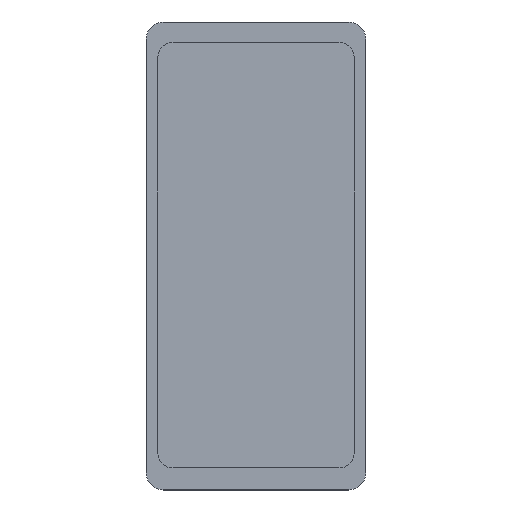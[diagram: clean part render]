
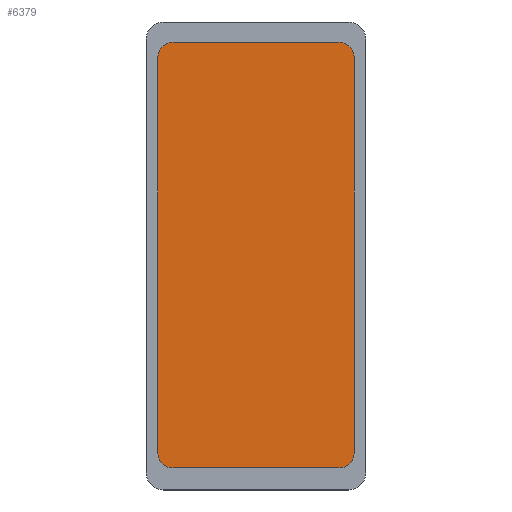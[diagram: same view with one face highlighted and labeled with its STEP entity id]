
A CAD part, top view. The second image highlights one B-rep face of the part: STEP entity #6379.
In plain terms, the highlighted planar face has unit normal (0, 0, 1).
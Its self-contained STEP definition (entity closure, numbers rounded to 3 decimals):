
#4991=CARTESIAN_POINT('',(-28.205,67.46,3.84));
#4992=DIRECTION('',(0.,0.,1.));
#4993=DIRECTION('',(0.,1.,0.));
#4994=AXIS2_PLACEMENT_3D('',#4991,#4992,#4993);
#4999=DIRECTION('',(-1.,0.,0.));
#5000=VECTOR('',#4999,56.41);
#5001=CARTESIAN_POINT('',(28.205,72.66,3.84));
#5002=LINE('',#5001,#5000);
#5006=CARTESIAN_POINT('',(28.205,67.46,3.84));
#5007=DIRECTION('',(0.,0.,1.));
#5008=DIRECTION('',(1.,0.,0.));
#5009=AXIS2_PLACEMENT_3D('',#5006,#5007,#5008);
#5014=DIRECTION('',(0.,1.,0.));
#5015=VECTOR('',#5014,134.35);
#5016=CARTESIAN_POINT('',(33.405,-66.89,3.84));
#5017=LINE('',#5016,#5015);
#5021=CARTESIAN_POINT('',(28.205,-66.89,3.84));
#5022=DIRECTION('',(0.,0.,1.));
#5023=DIRECTION('',(0.,-1.,0.));
#5024=AXIS2_PLACEMENT_3D('',#5021,#5022,#5023);
#5029=DIRECTION('',(1.,0.,0.));
#5030=VECTOR('',#5029,56.41);
#5031=CARTESIAN_POINT('',(-28.205,-72.09,3.84));
#5032=LINE('',#5031,#5030);
#5036=CARTESIAN_POINT('',(-28.205,-66.89,3.84));
#5037=DIRECTION('',(0.,0.,1.));
#5038=DIRECTION('',(-1.,0.,0.));
#5039=AXIS2_PLACEMENT_3D('',#5036,#5037,#5038);
#5044=DIRECTION('',(0.,-1.,0.));
#5045=VECTOR('',#5044,134.35);
#5046=CARTESIAN_POINT('',(-33.405,67.46,3.84));
#5047=LINE('',#5046,#5045);
#6028=CARTESIAN_POINT('',(-28.205,72.66,3.84));
#6029=CARTESIAN_POINT('',(-33.405,67.46,3.84));
#6030=VERTEX_POINT('',#6028);
#6031=VERTEX_POINT('',#6029);
#6032=CARTESIAN_POINT('',(-33.405,-66.89,3.84));
#6033=VERTEX_POINT('',#6032);
#6034=CARTESIAN_POINT('',(-28.205,-72.09,3.84));
#6035=VERTEX_POINT('',#6034);
#6036=CARTESIAN_POINT('',(28.205,-72.09,3.84));
#6037=VERTEX_POINT('',#6036);
#6038=CARTESIAN_POINT('',(33.405,-66.89,3.84));
#6039=VERTEX_POINT('',#6038);
#6040=CARTESIAN_POINT('',(33.405,67.46,3.84));
#6041=VERTEX_POINT('',#6040);
#6042=CARTESIAN_POINT('',(28.205,72.66,3.84));
#6043=VERTEX_POINT('',#6042);
#6364=CARTESIAN_POINT('',(0.,0.,3.84));
#6365=DIRECTION('',(0.,0.,1.));
#6366=DIRECTION('',(1.,0.,0.));
#6367=AXIS2_PLACEMENT_3D('',#6364,#6365,#6366);
#6368=PLANE('',#6367);
#6369=ORIENTED_EDGE('',*,*,#6260,.F.);
#6370=ORIENTED_EDGE('',*,*,#6275,.F.);
#6371=ORIENTED_EDGE('',*,*,#6289,.F.);
#6372=ORIENTED_EDGE('',*,*,#6303,.F.);
#6373=ORIENTED_EDGE('',*,*,#6317,.F.);
#6374=ORIENTED_EDGE('',*,*,#6331,.F.);
#6375=ORIENTED_EDGE('',*,*,#6345,.F.);
#6376=ORIENTED_EDGE('',*,*,#6358,.F.);
#6377=EDGE_LOOP('',(#6369,#6370,#6371,#6372,#6373,#6374,#6375,#6376));
#6378=FACE_OUTER_BOUND('',#6377,.F.);
#6379=ADVANCED_FACE('',(#6378),#6368,.T.);
#4995=CIRCLE('',#4994,5.2);
#5010=CIRCLE('',#5009,5.2);
#5025=CIRCLE('',#5024,5.2);
#5040=CIRCLE('',#5039,5.2);
#6260=EDGE_CURVE('',#6030,#6031,#4995,.T.);
#6275=EDGE_CURVE('',#6043,#6030,#5002,.T.);
#6289=EDGE_CURVE('',#6041,#6043,#5010,.T.);
#6303=EDGE_CURVE('',#6039,#6041,#5017,.T.);
#6317=EDGE_CURVE('',#6037,#6039,#5025,.T.);
#6331=EDGE_CURVE('',#6035,#6037,#5032,.T.);
#6345=EDGE_CURVE('',#6033,#6035,#5040,.T.);
#6358=EDGE_CURVE('',#6031,#6033,#5047,.T.);
